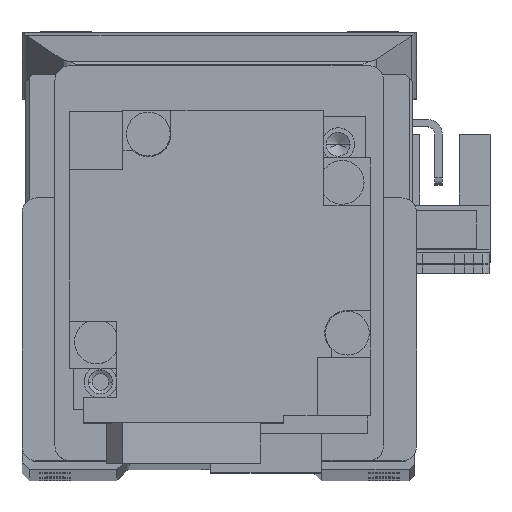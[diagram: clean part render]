
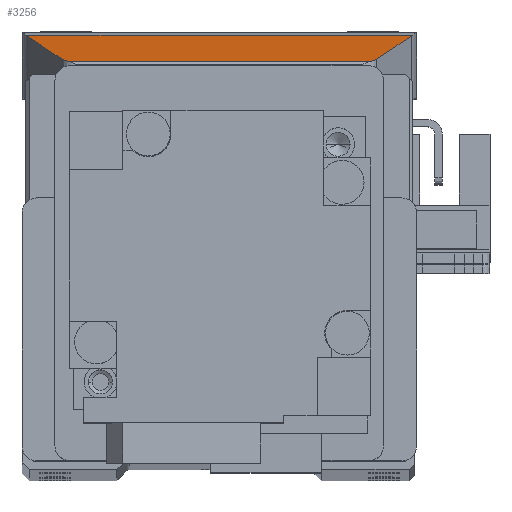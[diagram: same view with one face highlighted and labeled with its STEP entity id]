
A CAD part, top view. The second image highlights one B-rep face of the part: STEP entity #3256.
In plain terms, the highlighted planar face has unit normal (0, 0.966, 0.258).
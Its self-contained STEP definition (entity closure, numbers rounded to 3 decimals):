
#61 = EDGE_CURVE ( 'NONE', #1794, #27147, #7030, .T. ) ;
#687 = CARTESIAN_POINT ( 'NONE',  ( -26.354, 49.769, 44.616 ) ) ;
#936 = PLANE ( 'NONE',  #32922 ) ;
#1536 = DIRECTION ( 'NONE',  ( -1., 0., 0. ) ) ;
#1624 = CARTESIAN_POINT ( 'NONE',  ( -26.477, 49.862, 44.266 ) ) ;
#1794 = VERTEX_POINT ( 'NONE', #1624 ) ;
#2600 = CARTESIAN_POINT ( 'NONE',  ( 27., 46.299, 57.629 ) ) ;
#3256 = ADVANCED_FACE ( 'NONE', ( #23157 ), #936, .F. ) ;
#3992 = EDGE_CURVE ( 'NONE', #10342, #1794, #18401, .T. ) ;
#4276 = CARTESIAN_POINT ( 'NONE',  ( 26.285, 49.723, 44.788 ) ) ;
#4280 = VERTEX_POINT ( 'NONE', #15768 ) ;
#4705 = LINE ( 'NONE', #2600, #35690 ) ;
#6064 = ORIENTED_EDGE ( 'NONE', *, *, #14730, .T. ) ;
#7030 =( BOUNDED_CURVE ( )  B_SPLINE_CURVE ( 3, ( #24370, #21550, #687, #15974 ),
 .UNSPECIFIED., .F., .T. ) 
 B_SPLINE_CURVE_WITH_KNOTS ( ( 4, 4 ),
 ( 1.896, 1.951 ),
 .UNSPECIFIED. ) 
 CURVE ( )  GEOMETRIC_REPRESENTATION_ITEM ( )  RATIONAL_B_SPLINE_CURVE ( ( 1., 1., 1., 1. ) ) 
 REPRESENTATION_ITEM ( '' )  );
#7560 = VERTEX_POINT ( 'NONE', #32198 ) ;
#7653 = CARTESIAN_POINT ( 'NONE',  ( 27., 49.862, 44.266 ) ) ;
#7885 = EDGE_CURVE ( 'NONE', #26497, #7560, #30197, .T. ) ;
#9405 = CARTESIAN_POINT ( 'NONE',  ( 21.503, 46.535, 56.743 ) ) ;
#9547 = ORIENTED_EDGE ( 'NONE', *, *, #3992, .T. ) ;
#9674 = DIRECTION ( 'NONE',  ( 0.361, 0.24, -0.901 ) ) ;
#9713 =( BOUNDED_CURVE ( )  B_SPLINE_CURVE ( 3, ( #30129, #26779, #32710, #12195 ),
 .UNSPECIFIED., .F., .F. ) 
 B_SPLINE_CURVE_WITH_KNOTS ( ( 4, 4 ),
 ( 3.761, 4.332 ),
 .UNSPECIFIED. ) 
 CURVE ( )  GEOMETRIC_REPRESENTATION_ITEM ( )  RATIONAL_B_SPLINE_CURVE ( ( 1., 0.973, 0.973, 1. ) ) 
 REPRESENTATION_ITEM ( '' )  );
#9882 = CARTESIAN_POINT ( 'NONE',  ( 27., 46.299, 57.629 ) ) ;
#10342 = VERTEX_POINT ( 'NONE', #15866 ) ;
#11103 = CARTESIAN_POINT ( 'NONE',  ( 26.418, 49.815, 44.442 ) ) ;
#12195 = CARTESIAN_POINT ( 'NONE',  ( 21.503, 46.535, 56.743 ) ) ;
#12367 = VECTOR ( 'NONE', #9674, 1000. ) ;
#13789 = LINE ( 'NONE', #35897, #12367 ) ;
#14730 = EDGE_CURVE ( 'NONE', #31798, #34751, #13789, .T. ) ;
#15768 = CARTESIAN_POINT ( 'NONE',  ( 20.806, 46.299, 57.629 ) ) ;
#15866 = CARTESIAN_POINT ( 'NONE',  ( 26.477, 49.862, 44.266 ) ) ;
#15974 = CARTESIAN_POINT ( 'NONE',  ( -26.285, 49.723, 44.788 ) ) ;
#16816 = CARTESIAN_POINT ( 'NONE',  ( -21.503, 46.535, 56.743 ) ) ;
#18401 = LINE ( 'NONE', #7653, #25316 ) ;
#18515 = CARTESIAN_POINT ( 'NONE',  ( -21.503, 46.535, 56.743 ) ) ;
#18576 = ORIENTED_EDGE ( 'NONE', *, *, #27690, .F. ) ;
#19870 = CARTESIAN_POINT ( 'NONE',  ( 26.477, 49.862, 44.266 ) ) ;
#20003 = ORIENTED_EDGE ( 'NONE', *, *, #35824, .T. ) ;
#21550 = CARTESIAN_POINT ( 'NONE',  ( -26.418, 49.815, 44.442 ) ) ;
#21915 = DIRECTION ( 'NONE',  ( 0., -0.966, -0.258 ) ) ;
#21959 = EDGE_CURVE ( 'NONE', #27147, #26497, #30463, .T. ) ;
#23157 = FACE_OUTER_BOUND ( 'NONE', #29735, .T. ) ;
#24370 = CARTESIAN_POINT ( 'NONE',  ( -26.477, 49.862, 44.266 ) ) ;
#24434 = CARTESIAN_POINT ( 'NONE',  ( -14.891, 42.127, 73.273 ) ) ;
#25310 = ORIENTED_EDGE ( 'NONE', *, *, #21959, .T. ) ;
#25316 = VECTOR ( 'NONE', #1536, 1000. ) ;
#25419 = CARTESIAN_POINT ( 'NONE',  ( 26.354, 49.769, 44.616 ) ) ;
#25953 = CARTESIAN_POINT ( 'NONE',  ( -26.285, 49.723, 44.788 ) ) ;
#26497 = VERTEX_POINT ( 'NONE', #16816 ) ;
#26779 = CARTESIAN_POINT ( 'NONE',  ( 21.121, 46.359, 57.405 ) ) ;
#27147 = VERTEX_POINT ( 'NONE', #25953 ) ;
#27394 = DIRECTION ( 'NONE',  ( 0.361, -0.24, 0.901 ) ) ;
#27690 = EDGE_CURVE ( 'NONE', #4280, #7560, #4705, .T. ) ;
#28567 = ORIENTED_EDGE ( 'NONE', *, *, #7885, .T. ) ;
#29735 = EDGE_LOOP ( 'NONE', ( #6064, #34997, #9547, #36104, #25310, #28567, #18576, #20003 ) ) ;
#30129 = CARTESIAN_POINT ( 'NONE',  ( 20.806, 46.299, 57.629 ) ) ;
#30197 =( BOUNDED_CURVE ( )  B_SPLINE_CURVE ( 3, ( #18515, #31147, #33864, #36584 ),
 .UNSPECIFIED., .F., .F. ) 
 B_SPLINE_CURVE_WITH_KNOTS ( ( 4, 4 ),
 ( 1.951, 2.523 ),
 .UNSPECIFIED. ) 
 CURVE ( )  GEOMETRIC_REPRESENTATION_ITEM ( )  RATIONAL_B_SPLINE_CURVE ( ( 1., 0.973, 0.973, 1. ) ) 
 REPRESENTATION_ITEM ( '' )  );
#30463 = LINE ( 'NONE', #24434, #36954 ) ;
#31147 = CARTESIAN_POINT ( 'NONE',  ( -21.36, 46.44, 57.101 ) ) ;
#31798 = VERTEX_POINT ( 'NONE', #9405 ) ;
#31945 = DIRECTION ( 'NONE',  ( -1., 0., 0. ) ) ;
#32198 = CARTESIAN_POINT ( 'NONE',  ( -20.806, 46.299, 57.629 ) ) ;
#32667 =( BOUNDED_CURVE ( )  B_SPLINE_CURVE ( 3, ( #34593, #25419, #11103, #19870 ),
 .UNSPECIFIED., .F., .F. ) 
 B_SPLINE_CURVE_WITH_KNOTS ( ( 4, 4 ),
 ( 4.332, 4.388 ),
 .UNSPECIFIED. ) 
 CURVE ( )  GEOMETRIC_REPRESENTATION_ITEM ( )  RATIONAL_B_SPLINE_CURVE ( ( 1., 1., 1., 1. ) ) 
 REPRESENTATION_ITEM ( '' )  );
#32710 = CARTESIAN_POINT ( 'NONE',  ( 21.36, 46.44, 57.101 ) ) ;
#32922 = AXIS2_PLACEMENT_3D ( 'NONE', #9882, #21915, #33259 ) ;
#33259 = DIRECTION ( 'NONE',  ( 0., 0.258, -0.966 ) ) ;
#33864 = CARTESIAN_POINT ( 'NONE',  ( -21.121, 46.359, 57.405 ) ) ;
#34593 = CARTESIAN_POINT ( 'NONE',  ( 26.285, 49.723, 44.788 ) ) ;
#34751 = VERTEX_POINT ( 'NONE', #4276 ) ;
#34997 = ORIENTED_EDGE ( 'NONE', *, *, #36659, .T. ) ;
#35690 = VECTOR ( 'NONE', #31945, 1000. ) ;
#35824 = EDGE_CURVE ( 'NONE', #4280, #31798, #9713, .T. ) ;
#35897 = CARTESIAN_POINT ( 'NONE',  ( 21.909, 46.806, 55.728 ) ) ;
#36104 = ORIENTED_EDGE ( 'NONE', *, *, #61, .T. ) ;
#36584 = CARTESIAN_POINT ( 'NONE',  ( -20.806, 46.299, 57.629 ) ) ;
#36659 = EDGE_CURVE ( 'NONE', #34751, #10342, #32667, .T. ) ;
#36954 = VECTOR ( 'NONE', #27394, 1000. ) ;
